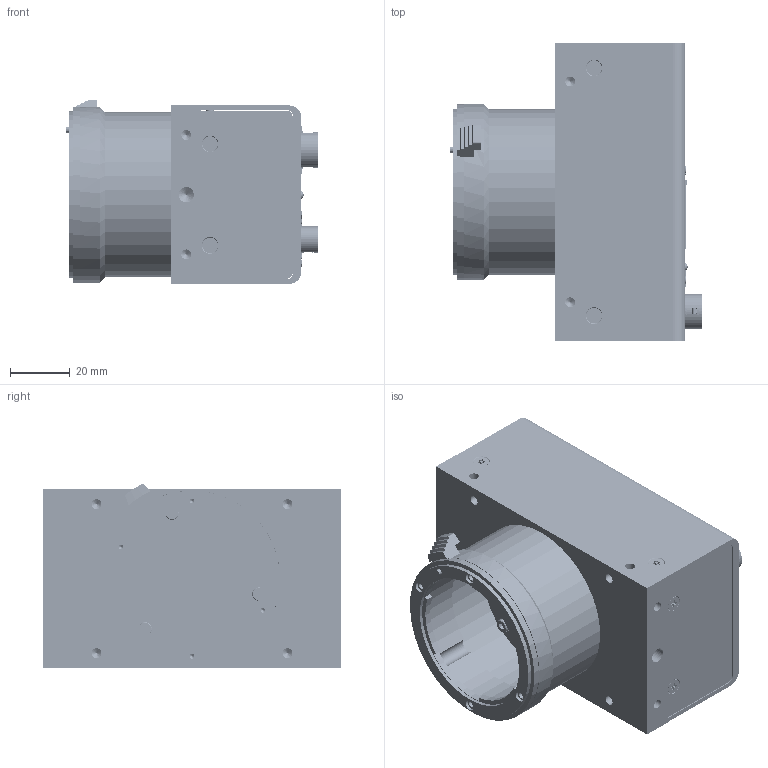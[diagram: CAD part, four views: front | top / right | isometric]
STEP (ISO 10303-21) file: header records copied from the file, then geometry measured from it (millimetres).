
FILE_DESCRIPTION (( 'STEP AP214' ), '1' );
FILE_NAME ('C7-5125-01-43／RMSL2K53GE／外観モデル.STEP', '2019-04-16T05:14:40', ( '' ), ( '' ), 'SwSTEP 2.0', 'SolidWorks 2016', '' );
FILE_SCHEMA (( 'AUTOMOTIVE_DESIGN' ));
Length unit declared in the file: millimetre
Products named in the file (43): C5-5115-00-43／コネクタ_55339-1208; ナット^C5-5094-00-43_6／コネクタ_HR10G-7R-6PB; 基板^C5-1050-03-42／XCM20125SHGIG用中継基板_PCB-XCM20SHGIG-C01#F-XCM20125SHGIG; 基板^C5-5143-00-43／CMOS 4k Line B&W ImageSensor_DR4K7_Invar_B&W_BM_v4(Art.-No.101148); C7-5125-01-43／RMSL2K53GE／外観モデル; 菊座^C5-5094-00-43_6／コネクタ_HR10G-7R-6PB; C5-5012-00-40_06／座付きなべ頭小ねじ（P=4) M2.6X06 SUS_CSPPNZP-SUS-M2.6-6; C4-1079-01-42／側面パネル; 基板^C5-1072-00-42／XCM20SHGIG用ﾒｲﾝ基板_PCB-XCM20SHGIG-M00#F-XCM20SHGIG; C5-5179-00-43_07／六角スペーサ_MSB-2607-04E; C5-5176-00-43／2mmﾋﾟｯﾁ・ﾚｾﾌﾟﾀｸﾙ_DF3A-2P-2DSA; C5-5171-00-43／ピッチコネクタ_FX8C-100S-SV; C5-1038-02-37／XCM20GIG用端子基板_PCB-XCM20GIG-T01#F-XCM20GIG; C5-1050-03-42／XCM20125SHGIG用中継基板_PCB-XCM20SHGIG-C01#F-XCM20125SHGIG; C5-5170-00-43／2mmﾋﾟｯﾁ・ﾚｾﾌﾟﾀｸﾙ_DF3-2S-2DSA; CZA07011／アトメルマウント; C5-5091-00-43_10／コネクタ_DF11-10DP-2DS; C4-1063-02-37／放熱ブロック; ナット^C5-5071-00-44_12／コネクタ_HR10A-10R-12PB; C5-5094-00-43_6／コネクタ_HR10G-7R-6PB; C5-5029-00-40_06／六角穴付ボルト M2.6X06 SUS_SCB2.6-6; 基板^C5-1038-02-37／XCM20GIG用端子基板_PCB-XCM20GIG-T01#F-XCM20GIG; ATMELマウント本体筒; C5-5172-00-43／0.8mmﾋﾟｯﾁ基板対基板ｺﾈｸﾀ_FX6-20P-0.8SV2; C5-5042-00-43／ﾋﾟﾝ・ｻﾗ6-ﾛﾌﾞﾎﾞﾙﾄ_M2.6X6(SUS); C5-5071-00-44_12／コネクタ_HR10A-10R-12PB; コネクタ^C5-5071-00-44_12／コネクタ_HR10A-10R-12PB; C5-5175-00-43_2／ピッチコネクタ_FX8C-100P-SV2; C5-5173-00-43／ﾊﾟﾙｽﾄﾗﾝｽ内蔵RJ45ｺﾈｸﾀ_V890-1AX1-A1; C4-1076-02-42／フロントパネル; C5-5138-00-43_12／LED用スペーサー_LM-12; C5-5030-00-40_05／六角穴付ボルト M2X05 SUS_SCB2-5; Fマウント; C5-5099-00-43／発光ダイオード_SPR-39MVWF; C5-5178-00-43／スルーホールタップ_TH-0.8-5.0-M2.6; コネクタ^C5-5094-00-43_6／コネクタ_HR10G-7R-6PB; C5-1072-00-42乛XCM20SHGIG梡也輮顢耞PCB-XCM20SHGIG-M00#F-XCM20SHGIG; C5-5177-00-43／0.8mmﾋﾟｯﾁ基板対基板ｺﾈｸﾀ_FX6-20S-0.8SV; 菊座^C5-5071-00-44_12／コネクタ_HR10A-10R-12PB; C5-5019-00-40_06／サラネジ M2.6X06 SUS_SFBJ2.6-6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
Assembly tree (68 placements, depth 3):
  C7-5125-01-43／RMSL2K53GE／外観モデル
    CZA07011／アトメルマウント
      ATMELマウント本体筒
      Fマウント
    C4-1076-02-42／フロントパネル
    C4-1077-01-42／背面カバー
    C4-1079-01-42／側面パネル  x2
    C4-1063-02-37／放熱ブロック
    C5-5094-00-43_6／コネクタ_HR10G-7R-6PB
      コネクタ^C5-5094-00-43_6／コネクタ_HR10G-7R-6PB
      菊座^C5-5094-00-43_6／コネクタ_HR10G-7R-6PB
      ナット^C5-5094-00-43_6／コネクタ_HR10G-7R-6PB
    C5-5071-00-44_12／コネクタ_HR10A-10R-12PB
      コネクタ^C5-5071-00-44_12／コネクタ_HR10A-10R-12PB
      菊座^C5-5071-00-44_12／コネクタ_HR10A-10R-12PB
      ナット^C5-5071-00-44_12／コネクタ_HR10A-10R-12PB
    C5-5143-00-43／CMOS 4k Line B&W ImageSensor_DR4K7_Invar_B&W_BM_v4(Art.-No.101148)
      基板^C5-5143-00-43／CMOS 4k Line B&W ImageSensor_DR4K7_Invar_B&W_BM_v4(Art.-No.101148)
      C5-5115-00-43／コネクタ_55339-1208
    C5-1050-03-42／XCM20125SHGIG用中継基板_PCB-XCM20SHGIG-C01#F-XCM20125SHGIG
      基板^C5-1050-03-42／XCM20125SHGIG用中継基板_PCB-XCM20SHGIG-C01#F-XCM20125SHGIG
      C5-5091-00-43_10／コネクタ_DF11-10DP-2DS
      C5-5175-00-43_2／ピッチコネクタ_FX8C-100P-SV2
      C5-5176-00-43／2mmﾋﾟｯﾁ・ﾚｾﾌﾟﾀｸﾙ_DF3A-2P-2DSA
      C5-5066-00-44／コネクタ_54477-1208  x2
    C5-1072-00-42乛XCM20SHGIG梡也輮顢耞PCB-XCM20SHGIG-M00#F-XCM20SHGIG
      基板^C5-1072-00-42／XCM20SHGIG用ﾒｲﾝ基板_PCB-XCM20SHGIG-M00#F-XCM20SHGIG
      C5-5091-00-43_10／コネクタ_DF11-10DP-2DS  x2
      C5-5099-00-43／発光ダイオード_SPR-39MVWF
      C5-5138-00-43_12／LED用スペーサー_LM-12
      C5-5170-00-43／2mmﾋﾟｯﾁ・ﾚｾﾌﾟﾀｸﾙ_DF3-2S-2DSA
      C5-5171-00-43／ピッチコネクタ_FX8C-100S-SV
      C5-5172-00-43／0.8mmﾋﾟｯﾁ基板対基板ｺﾈｸﾀ_FX6-20P-0.8SV2
      C5-5173-00-43／ﾊﾟﾙｽﾄﾗﾝｽ内蔵RJ45ｺﾈｸﾀ_V890-1AX1-A1
    C5-1038-02-37／XCM20GIG用端子基板_PCB-XCM20GIG-T01#F-XCM20GIG
      基板^C5-1038-02-37／XCM20GIG用端子基板_PCB-XCM20GIG-T01#F-XCM20GIG
      C5-5177-00-43／0.8mmﾋﾟｯﾁ基板対基板ｺﾈｸﾀ_FX6-20S-0.8SV
      C5-5178-00-43／スルーホールタップ_TH-0.8-5.0-M2.6
    C5-5179-00-43_07／六角スペーサ_MSB-2607-04E  x4
    C5-5012-00-40_06／座付きなべ頭小ねじ（P=4) M2.6X06 SUS_CSPPNZP-SUS-M2.6-6  x4
    C5-5029-00-40_06／六角穴付ボルト M2.6X06 SUS_SCB2.6-6  x3
    C5-5019-00-40_06／サラネジ M2.6X06 SUS_SFBJ2.6-6  x4
    C5-5042-00-43／ﾋﾟﾝ・ｻﾗ6-ﾛﾌﾞﾎﾞﾙﾄ_M2.6X6(SUS)  x9
    C5-5030-00-40_05／六角穴付ボルト M2X05 SUS_SCB2-5  x4
Bounding box: 84.25 x 100 x 61.8 mm (x, y, z)
Volume: 157542 mm3; surface area: 121661.4 mm2
Topology: 84 solids, 88 shells, 24452 faces, 69360 edges, 44756 vertices
Faces by surface type: plane 19877, bspline 2915, cylinder 1434, cone 216, torus 8, sphere 2
Full cylindrical faces by diameter (mm): 0.19 x1, 0.4 x15, 0.5 x12, 0.6 x1, 0.8 x2, 0.89 x10, 0.9 x3, 0.95 x2, 1 x9, 1.2 x2, 1.5 x5, 1.6 x10, 2 x10, 2.2 x31, 2.288 x4, 2.6 x22, 2.8 x24, 3.1 x2, 3.25 x2, 3.3 x12, 3.5 x5, 3.8 x5, 4.5 x8, 4.8 x4, 5 x8, 5.105 x1, 5.2 x5, 5.7 x1, 6.5 x2, 7.7 x1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
Entity records: 782355 total; most frequent: CARTESIAN_POINT 219070, ORIENTED_EDGE 113664, DIRECTION 87646, EDGE_CURVE 56832, LINE 48082, VECTOR 48082, VERTEX_POINT 36818, EDGE_LOOP 21422
